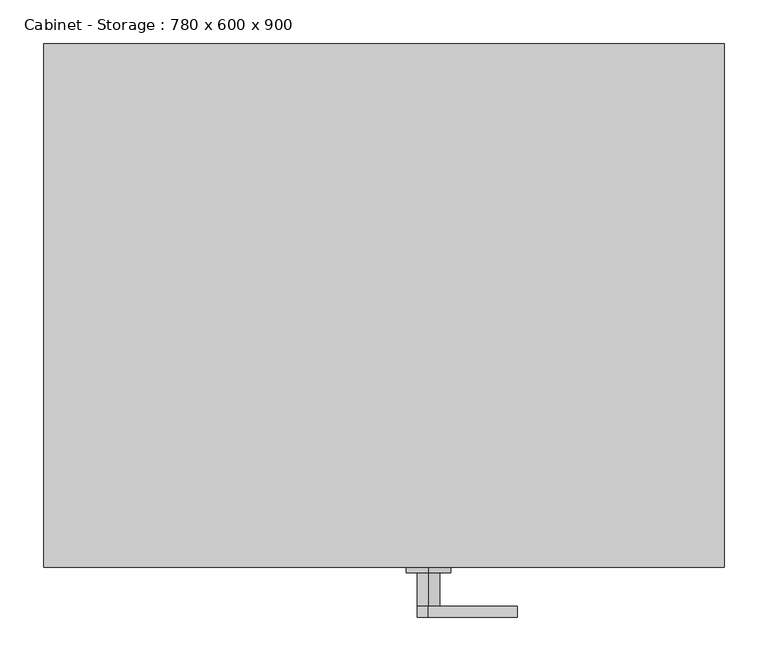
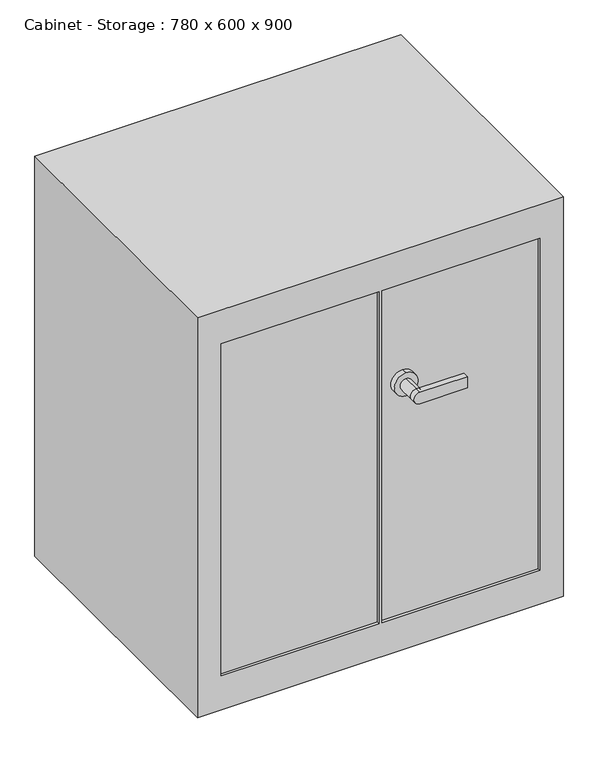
"""IFC4 building model written with IfcOpenShell, lengths in millimetres: furniture geometry, Cabinet - Storage : 780 x 600 x 900."""

from ifc_helpers import new_model, si_unit, point, frame, frame_2d, origin, place, context, project, spatial, polyline, circle_curve, trimmed, segment, composite_curve, outline, extrude, faceted_brep, source, transform, mapped, element, save


def cabinet_storage_780_x_600_x_900_050bcf3c(model_context):
    return source(origin(), model_context, "Body", "SolidModel", [
        extrude(outline(composite_curve([segment(polyline([(612.7, 152.5427411), (612.7, 50.9427411)]), True, "CONTINUOUS"), segment(trimmed(circle_curve(frame_2d((600.0, 50.9427411)), 12.7), [point((612.7, 50.9427411))], [point((587.3, 50.9427411))], False, "CARTESIAN"), True, "CONTINUOUS"), segment(polyline([(587.3, 50.9427411), (587.3, 152.5427411), (612.7, 152.5427411)]), True, "CONTINUOUS")], self_intersect=False)), frame((0.0, -357.15, 0.0), z_axis=(0.0, 1.0, 0.0), x_axis=(0.0, 0.0, 1.0)), (0.0, 0.0, 1.0), 12.7),
        extrude(outline(composite_curve([segment(trimmed(circle_curve(frame_2d((600.0, 50.9427411)), 12.7), [point((612.7, 50.9427411))], [point((587.3, 50.9427411))], False, "CARTESIAN"), True, "CONTINUOUS"), segment(trimmed(circle_curve(frame_2d((600.0, 50.9427411)), 12.7), [point((587.3, 50.9427411))], [point((612.7, 50.9427411))], False, "CARTESIAN"), True, "CONTINUOUS")], self_intersect=False)), frame((0.0, -344.45, 0.0), z_axis=(0.0, 1.0, 0.0), x_axis=(0.0, 0.0, 1.0)), (0.0, 0.0, 1.0), 38.1),
        extrude(outline(composite_curve([segment(trimmed(circle_curve(frame_2d((600.0, 50.9427411)), 25.4), [point((625.4, 50.9427411))], [point((574.6, 50.9427411))], False, "CARTESIAN"), True, "CONTINUOUS"), segment(trimmed(circle_curve(frame_2d((600.0, 50.9427411)), 25.4), [point((574.6, 50.9427411))], [point((625.4, 50.9427411))], False, "CARTESIAN"), True, "CONTINUOUS")], self_intersect=False)), frame((0.0, -306.35, 0.0), z_axis=(0.0, 1.0, 0.0), x_axis=(0.0, 0.0, 1.0)), (0.0, 0.0, 1.0), 12.7),
        faceted_brep([(390.0, -300.0, 900.0), (390.0, 300.0, 900.0), (-390.0, 300.0, 900.0), (-390.0, -300.0, 900.0), (390.0, -300.0, 0.0), (-390.0, -300.0, 0.0), (-390.0, 300.0, 0.0), (390.0, 300.0, 0.0), (339.2, -300.0, 823.8), (339.2, -300.0, 76.2), (3.175, -300.0, 76.2), (3.175, -300.0, 823.8), (-339.2, -300.0, 823.8), (-3.175, -300.0, 823.8), (-3.175, -300.0, 76.2), (-339.2, -300.0, 76.2), (339.2, -293.65, 76.2), (339.2, -293.65, 823.8), (3.175, -293.65, 823.8), (3.175, -293.65, 76.2), (-3.175, -293.65, 823.8), (-339.2, -293.65, 823.8), (-339.2, -293.65, 76.2), (-3.175, -293.65, 76.2)], [[[0, 1, 2, 3]], [[4, 5, 6, 7]], [[1, 0, 4, 7]], [[2, 1, 7, 6]], [[3, 2, 6, 5]], [[0, 3, 5, 4], [8, 9, 10, 11], [12, 13, 14, 15]], [[16, 17, 18, 19]], [[17, 16, 9, 8]], [[18, 17, 8, 11]], [[19, 18, 11, 10]], [[16, 19, 10, 9]], [[20, 21, 22, 23]], [[21, 20, 13, 12]], [[22, 21, 12, 15]], [[23, 22, 15, 14]], [[20, 23, 14, 13]]]),
    ])


if __name__ == "__main__":
    model = new_model("IFC4")
    model_context = context("Model", 3, world=origin())
    ifc_project = project(units=[si_unit("LENGTHUNIT", "METRE", prefix="MILLI")], contexts=[model_context])
    site = spatial("IfcSite", under=ifc_project)
    building = spatial("IfcBuilding", under=site)
    placement = place(None, origin())
    cabinet_storage_780_x_600_x_900_shape = cabinet_storage_780_x_600_x_900_050bcf3c(model_context)
    element("IfcFurniture", 1, ObjectType="Cabinet - Storage : 780 x 600 x 900", at=placement, inside=building, context=model_context, shape_type="MappedRepresentation", body=[
        mapped(cabinet_storage_780_x_600_x_900_shape, transform((0.0, 0.0, 0.0), x_axis=(1.0, 0.0, 0.0), y_axis=(0.0, 1.0, 0.0), z_axis=(0.0, 0.0, 1.0))),
    ])
    save(model, "model.ifc")
